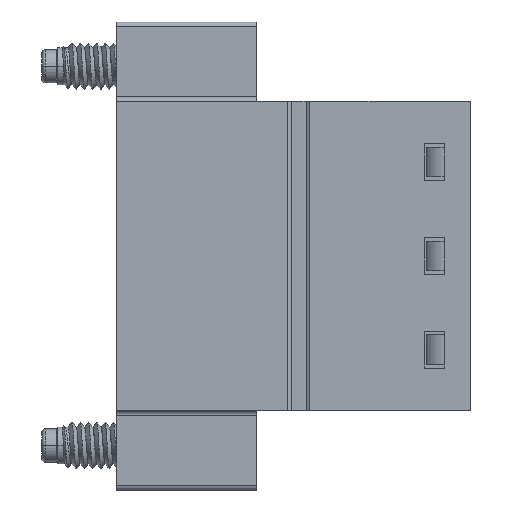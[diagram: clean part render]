
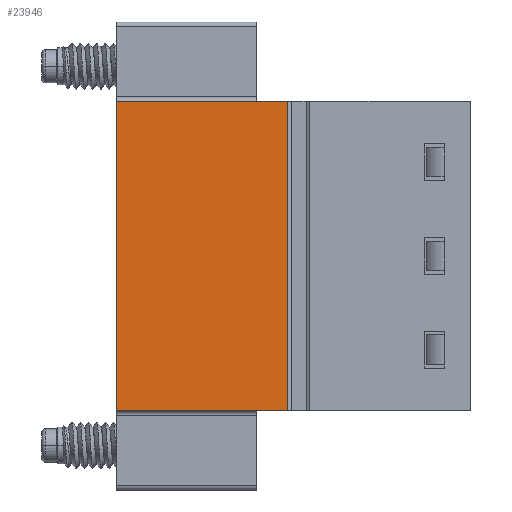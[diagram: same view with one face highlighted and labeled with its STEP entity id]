
A CAD part, front view. The second image highlights one B-rep face of the part: STEP entity #23946.
In plain terms, the highlighted planar face has unit normal (0, -1, 0).
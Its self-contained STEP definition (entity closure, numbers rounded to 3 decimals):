
#956=DIRECTION('',(0.,0.,-1.));
#957=VECTOR('',#956,16.76);
#958=CARTESIAN_POINT('',(-9.6,0.,16.));
#959=LINE('',#958,#957);
#3186=DIRECTION('',(0.,0.,-1.));
#3187=VECTOR('',#3186,16.76);
#3188=CARTESIAN_POINT('',(-0.3,0.,16.));
#3189=LINE('',#3188,#3187);
#3190=DIRECTION('',(-1.,0.,0.));
#3191=VECTOR('',#3190,9.3);
#3192=CARTESIAN_POINT('',(-0.3,0.,-0.76));
#3193=LINE('',#3192,#3191);
#3194=DIRECTION('',(1.,0.,0.));
#3195=VECTOR('',#3194,9.3);
#3196=CARTESIAN_POINT('',(-9.6,0.,16.));
#3197=LINE('',#3196,#3195);
#16221=CARTESIAN_POINT('',(-0.3,0.,16.));
#16223=VERTEX_POINT('',#16221);
#16225=CARTESIAN_POINT('',(-9.6,0.,16.));
#16227=VERTEX_POINT('',#16225);
#18078=CARTESIAN_POINT('',(-0.3,0.,-0.76));
#18080=VERTEX_POINT('',#18078);
#18104=CARTESIAN_POINT('',(-9.6,0.,-0.76));
#18105=VERTEX_POINT('',#18104);
#23932=CARTESIAN_POINT('',(-4.95,0.,11.81));
#23933=DIRECTION('',(0.,1.,0.));
#23934=DIRECTION('',(1.,0.,0.));
#23935=AXIS2_PLACEMENT_3D('',#23932,#23933,#23934);
#23936=PLANE('',#23935);
#23938=ORIENTED_EDGE('',*,*,#23937,.T.);
#23940=ORIENTED_EDGE('',*,*,#23939,.T.);
#23941=ORIENTED_EDGE('',*,*,#20622,.F.);
#23943=ORIENTED_EDGE('',*,*,#23942,.T.);
#23944=EDGE_LOOP('',(#23938,#23940,#23941,#23943));
#23945=FACE_OUTER_BOUND('',#23944,.F.);
#23946=ADVANCED_FACE('',(#23945),#23936,.F.);
#20622=EDGE_CURVE('',#16227,#18105,#959,.T.);
#23937=EDGE_CURVE('',#16223,#18080,#3189,.T.);
#23939=EDGE_CURVE('',#18080,#18105,#3193,.T.);
#23942=EDGE_CURVE('',#16227,#16223,#3197,.T.);
